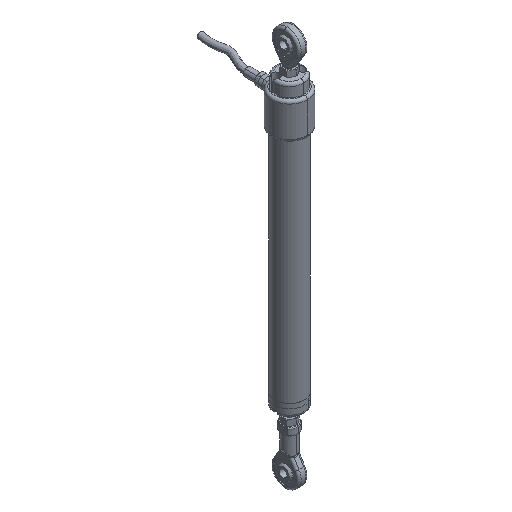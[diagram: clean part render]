
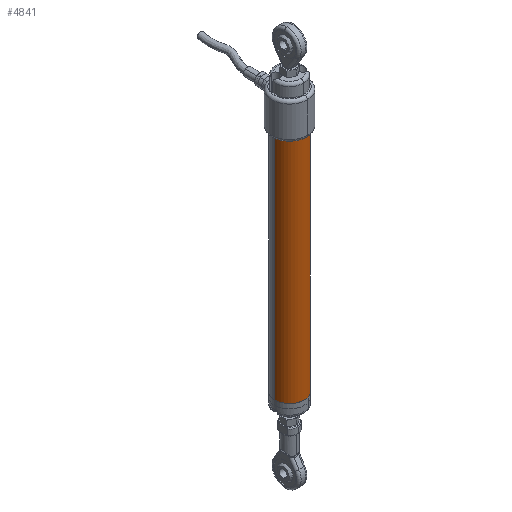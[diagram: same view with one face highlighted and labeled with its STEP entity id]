
A CAD part, isometric view. The second image highlights one B-rep face of the part: STEP entity #4841.
In plain terms, the highlighted cylindrical face has radius 9.5 mm (diameter 19 mm), a partial arc.
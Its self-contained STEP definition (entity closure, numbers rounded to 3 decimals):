
#108 = ORIENTED_EDGE ( 'NONE', *, *, #6900, .F. ) ;
#157 = EDGE_CURVE ( 'NONE', #3576, #18723, #16995, .T. ) ;
#1825 = CARTESIAN_POINT ( 'NONE',  ( 0., 0., 0. ) ) ;
#1963 = DIRECTION ( 'NONE',  ( 1., 0., 0. ) ) ;
#2234 = CARTESIAN_POINT ( 'NONE',  ( -9.5, 0., 0. ) ) ;
#3100 = VECTOR ( 'NONE', #13903, 1000. ) ;
#3576 = VERTEX_POINT ( 'NONE', #17954 ) ;
#3608 = DIRECTION ( 'NONE',  ( 1., 0., 0. ) ) ;
#3793 = VERTEX_POINT ( 'NONE', #2234 ) ;
#4433 = DIRECTION ( 'NONE',  ( 0., 0., 1. ) ) ;
#4659 = CIRCLE ( 'NONE', #11306, 9.5 ) ;
#4841 = ADVANCED_FACE ( 'NONE', ( #22481 ), #12503, .T. ) ;
#5235 = LINE ( 'NONE', #17867, #19917 ) ;
#5429 = ORIENTED_EDGE ( 'NONE', *, *, #157, .T. ) ;
#5440 = DIRECTION ( 'NONE',  ( 0., 0., 1. ) ) ;
#6562 = DIRECTION ( 'NONE',  ( 0., 0., 1. ) ) ;
#6900 = EDGE_CURVE ( 'NONE', #3576, #3793, #5235, .T. ) ;
#7309 = AXIS2_PLACEMENT_3D ( 'NONE', #13302, #4433, #12897 ) ;
#7795 = LINE ( 'NONE', #20956, #3100 ) ;
#9305 = ORIENTED_EDGE ( 'NONE', *, *, #21959, .F. ) ;
#11306 = AXIS2_PLACEMENT_3D ( 'NONE', #1825, #14187, #3608 ) ;
#12503 = CYLINDRICAL_SURFACE ( 'NONE', #22879, 9.5 ) ;
#12897 = DIRECTION ( 'NONE',  ( 1., 0., 0. ) ) ;
#13302 = CARTESIAN_POINT ( 'NONE',  ( 0., 0., -159. ) ) ;
#13313 = VERTEX_POINT ( 'NONE', #17302 ) ;
#13609 = CARTESIAN_POINT ( 'NONE',  ( 0., 0., -159. ) ) ;
#13679 = ORIENTED_EDGE ( 'NONE', *, *, #17226, .T. ) ;
#13903 = DIRECTION ( 'NONE',  ( 0., 0., 1. ) ) ;
#14187 = DIRECTION ( 'NONE',  ( 0., 0., 1. ) ) ;
#16995 = CIRCLE ( 'NONE', #7309, 9.5 ) ;
#17135 = CARTESIAN_POINT ( 'NONE',  ( 9.5, 0., -159. ) ) ;
#17226 = EDGE_CURVE ( 'NONE', #18723, #13313, #7795, .T. ) ;
#17302 = CARTESIAN_POINT ( 'NONE',  ( 9.5, 0., 0. ) ) ;
#17867 = CARTESIAN_POINT ( 'NONE',  ( -9.5, 0., -159. ) ) ;
#17954 = CARTESIAN_POINT ( 'NONE',  ( -9.5, 0., -159. ) ) ;
#18551 = EDGE_LOOP ( 'NONE', ( #108, #5429, #13679, #9305 ) ) ;
#18723 = VERTEX_POINT ( 'NONE', #17135 ) ;
#19917 = VECTOR ( 'NONE', #5440, 1000. ) ;
#20956 = CARTESIAN_POINT ( 'NONE',  ( 9.5, 0., -159. ) ) ;
#21959 = EDGE_CURVE ( 'NONE', #3793, #13313, #4659, .T. ) ;
#22481 = FACE_OUTER_BOUND ( 'NONE', #18551, .T. ) ;
#22879 = AXIS2_PLACEMENT_3D ( 'NONE', #13609, #6562, #1963 ) ;
